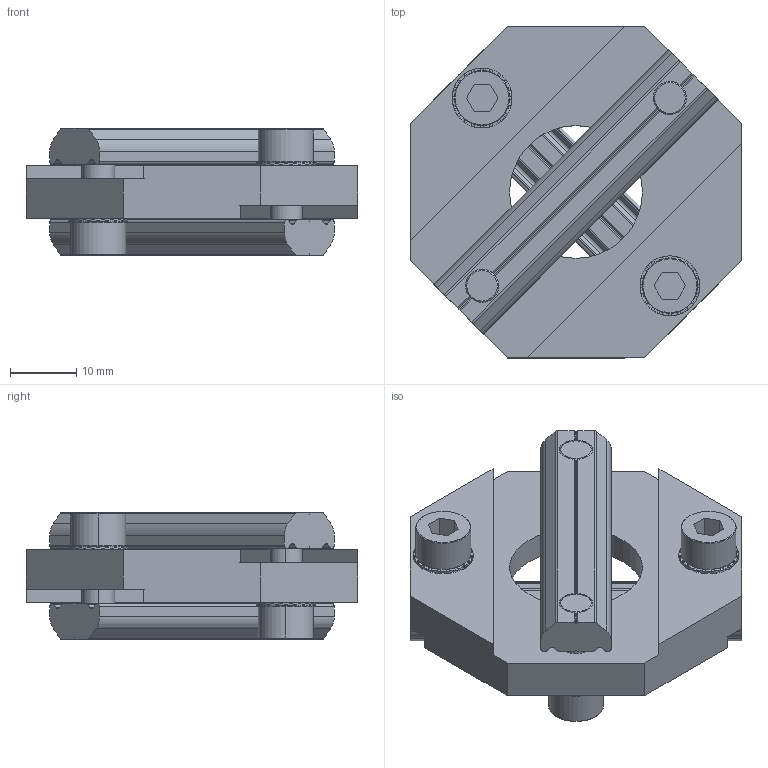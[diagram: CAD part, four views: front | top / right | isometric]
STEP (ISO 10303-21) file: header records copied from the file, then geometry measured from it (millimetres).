
FILE_DESCRIPTION (( 'STEP AP214' ), '1' );
FILE_NAME ('SMBA-2525T.STEP', '2022-12-08T03:46:32', ( '' ), ( '' ), 'SwSTEP 2.0', 'SolidWorks 2018', '' );
FILE_SCHEMA (( 'AUTOMOTIVE_DESIGN' ));
Length unit declared in the file: millimetre
Products named in the file (1): SMBA-2525T
Bounding box: 50 x 50 x 19.1 mm (x, y, z)
Volume: 16379 mm3; surface area: 11345 mm2
Topology: 11 solids, 11 shells, 864 faces, 2526 edges, 1676 vertices
Faces by surface type: plane 754, cylinder 86, cone 24
Entity records: 38702 total; most frequent: CARTESIAN_POINT 5451, ORIENTED_EDGE 5052, DIRECTION 5012, EDGE_CURVE 2526, AXIS2_PLACEMENT_3D 1685, VERTEX_POINT 1676, LINE 1642, VECTOR 1642
